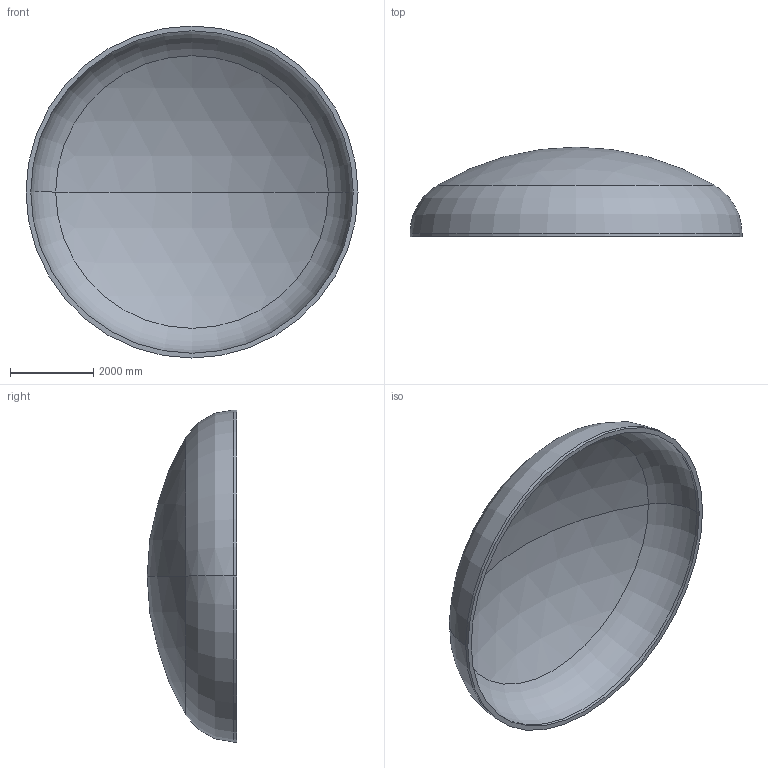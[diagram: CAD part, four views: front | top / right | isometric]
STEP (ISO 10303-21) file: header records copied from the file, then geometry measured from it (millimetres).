
FILE_DESCRIPTION (( 'STEP AP203' ), '1' );
FILE_NAME ('DIN 28013 Korbbogenform_-_Boden DIN 28013 - 8000 x 75 - I - s=116.step', '2016-07-04T11:06:03', ( '' ), ( '' ), 'SwSTEP 2.0', 'SolidWorks 2013', '' );
FILE_SCHEMA (( 'CONFIG_CONTROL_DESIGN' ));
Length unit declared in the file: millimetre
Products named in the file (1): DIN 28013 Korbbogenform_-_Boden DIN 28013 - 8000 x 75 - I - s=116
Bounding box: 8000 x 2154.2 x 8000 mm (x, y, z)
Volume: 8135314125.2 mm3; surface area: 143165289.5 mm2
Topology: 1 solids, 1 shells, 13 faces, 24 edges, 14 vertices
Faces by surface type: torus 4, cylinder 4, sphere 4, plane 1
Entity records: 407 total; most frequent: DIRECTION 72, CARTESIAN_POINT 52, ORIENTED_EDGE 48, AXIS2_PLACEMENT_3D 34, EDGE_CURVE 24, CIRCLE 20, VERTEX_POINT 14, EDGE_LOOP 14
